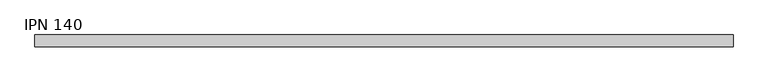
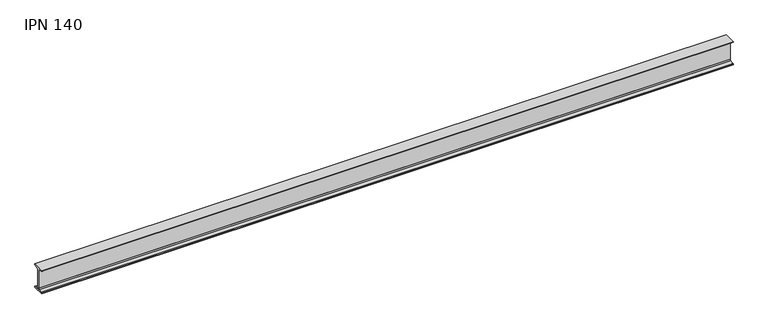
"""IFC4 building model written with IfcOpenShell, lengths in millimetres: beam geometry, IPN - Secciones en I con alas cónicas : IPN 140."""

from ifc_helpers import new_model, si_unit, point, frame, frame_2d, origin, place, context, project, spatial, polyline, circle_curve, trimmed, segment, composite_curve, outline, extrude, source, transform, mapped, element, save


def ipn_140_6de8b993(model_context):
    return source(origin(), model_context, "Body", "SweptSolid", [
        extrude(outline(composite_curve([segment(polyline([(33.0, 70.0), (33.0, 66.6671583)]), True, "CONTINUOUS"), segment(trimmed(circle_curve(frame_2d((29.6, 66.6671583)), 3.4), [point((33.0, 66.6671583))], [point((30.0714027, 63.2999964))], False, "CARTESIAN"), True, "CONTINUOUS"), segment(polyline([(30.0714027, 63.2999964), (7.7597073, 60.176359)]), True, "CONTINUOUS"), segment(trimmed(circle_curve(frame_2d((8.55, 54.5314111)), 5.7), [point((7.7597073, 60.176359))], [point((2.85, 54.5314111))], True, "CARTESIAN"), True, "CONTINUOUS"), segment(polyline([(2.85, 54.5314111), (2.85, -54.5314111)]), True, "CONTINUOUS"), segment(trimmed(circle_curve(frame_2d((8.55, -54.5314111)), 5.7), [point((2.85, -54.5314111))], [point((7.7597073, -60.176359))], True, "CARTESIAN"), True, "CONTINUOUS"), segment(polyline([(7.7597073, -60.176359), (30.0714027, -63.2999964)]), True, "CONTINUOUS"), segment(trimmed(circle_curve(frame_2d((29.6, -66.6671583)), 3.4), [point((30.0714027, -63.2999964))], [point((33.0, -66.6671583))], False, "CARTESIAN"), True, "CONTINUOUS"), segment(polyline([(33.0, -66.6671583), (33.0, -70.0), (-33.0, -70.0), (-33.0, -66.6671583)]), True, "CONTINUOUS"), segment(trimmed(circle_curve(frame_2d((-29.6, -66.6671583)), 3.4), [point((-33.0, -66.6671583))], [point((-30.0714027, -63.2999964))], False, "CARTESIAN"), True, "CONTINUOUS"), segment(polyline([(-30.0714027, -63.2999964), (-7.7597073, -60.176359)]), True, "CONTINUOUS"), segment(trimmed(circle_curve(frame_2d((-8.55, -54.5314111)), 5.7), [point((-7.7597073, -60.176359))], [point((-2.85, -54.5314111))], True, "CARTESIAN"), True, "CONTINUOUS"), segment(polyline([(-2.85, -54.5314111), (-2.85, 54.5314111)]), True, "CONTINUOUS"), segment(trimmed(circle_curve(frame_2d((-8.55, 54.5314111)), 5.7), [point((-2.85, 54.5314111))], [point((-7.7597073, 60.176359))], True, "CARTESIAN"), True, "CONTINUOUS"), segment(polyline([(-7.7597073, 60.176359), (-30.0714027, 63.2999964)]), True, "CONTINUOUS"), segment(trimmed(circle_curve(frame_2d((-29.6, 66.6671583)), 3.4), [point((-30.0714027, 63.2999964))], [point((-33.0, 66.6671583))], False, "CARTESIAN"), True, "CONTINUOUS"), segment(polyline([(-33.0, 66.6671583), (-33.0, 70.0), (33.0, 70.0)]), True, "CONTINUOUS")], self_intersect=False)), frame((-1698.0, 0.0, 0.0), z_axis=(1.0, 0.0, 0.0), x_axis=(0.0, 1.0, 0.0)), (0.0, 0.0, 1.0), 3923.0),
    ])


if __name__ == "__main__":
    model = new_model("IFC4")
    model_context = context("Model", 3, world=origin())
    ifc_project = project(units=[si_unit("LENGTHUNIT", "METRE", prefix="MILLI")], contexts=[model_context])
    site = spatial("IfcSite", under=ifc_project)
    building = spatial("IfcBuilding", under=site)
    placement = place(None, origin())
    ipn_140_shape = ipn_140_6de8b993(model_context)
    element("IfcBeam", 1, ObjectType="IPN - Secciones en I con alas cónicas : IPN 140", at=placement, inside=building, context=model_context, shape_type="MappedRepresentation", body=[
        mapped(ipn_140_shape, transform((0.0, 0.0, 0.0), x_axis=(1.0, 0.0, 0.0), y_axis=(0.0, 1.0, 0.0), z_axis=(0.0, 0.0, 1.0))),
    ])
    save(model, "model.ifc")
